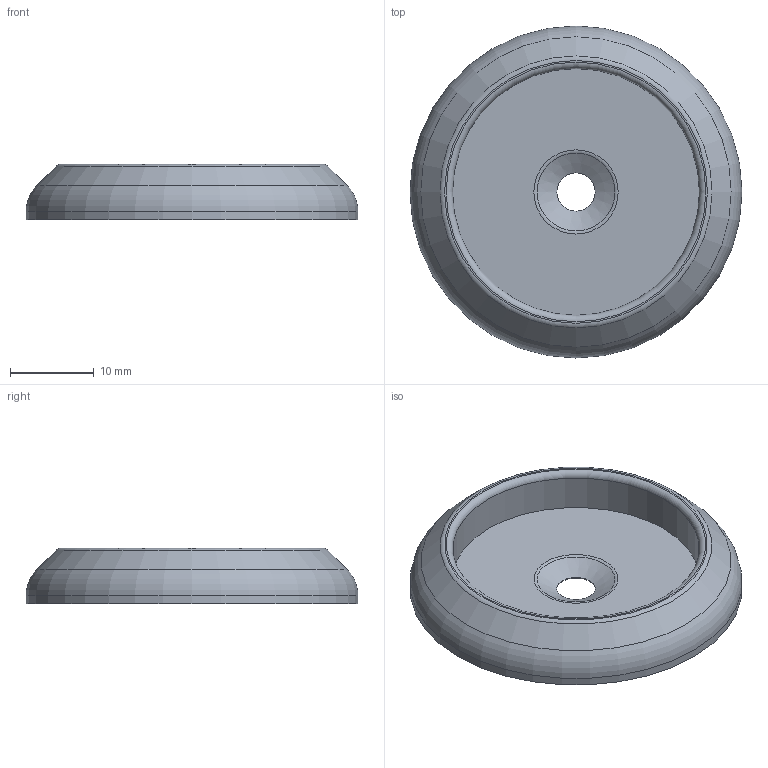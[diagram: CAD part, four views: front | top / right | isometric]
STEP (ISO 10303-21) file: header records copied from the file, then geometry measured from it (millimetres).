
FILE_DESCRIPTION(/* description */ (''),/* implementation_level */ '2;1');
FILE_NAME(/* name */ '2025_11_28_petesquared_feet_rim.step',/* time_stamp */ '2025-11-28T05:27:05-08:00',/* author */ (''),/* organization */ (''),/* preprocessor_version */ 'ST-DEVELOPER v20.1',/* originating_system */ 'Autodesk Translation Framework v14.21.0.0',/* authorisation */ '');
FILE_SCHEMA (('AUTOMOTIVE_DESIGN { 1 0 10303 214 3 1 1 }'));
Length unit declared in the file: inch
Products named in the file (1): 3dprinter_stand_foot_holder
Bounding box: 39.62 x 39.62 x 6.6 mm (x, y, z)
Volume: 3708.5 mm3; surface area: 3379.2 mm2
Topology: 1 solids, 1 shells, 12 faces, 23 edges, 14 vertices
Faces by surface type: torus 4, cylinder 3, plane 3, cone 2
Full cylindrical faces by diameter (mm): 4.572 x1, 29.464 x1, 39.624 x1
Entity records: 352 total; most frequent: DIRECTION 67, CARTESIAN_POINT 50, ORIENTED_EDGE 46, AXIS2_PLACEMENT_3D 31, EDGE_CURVE 23, CIRCLE 18, EDGE_LOOP 15, VERTEX_POINT 14
